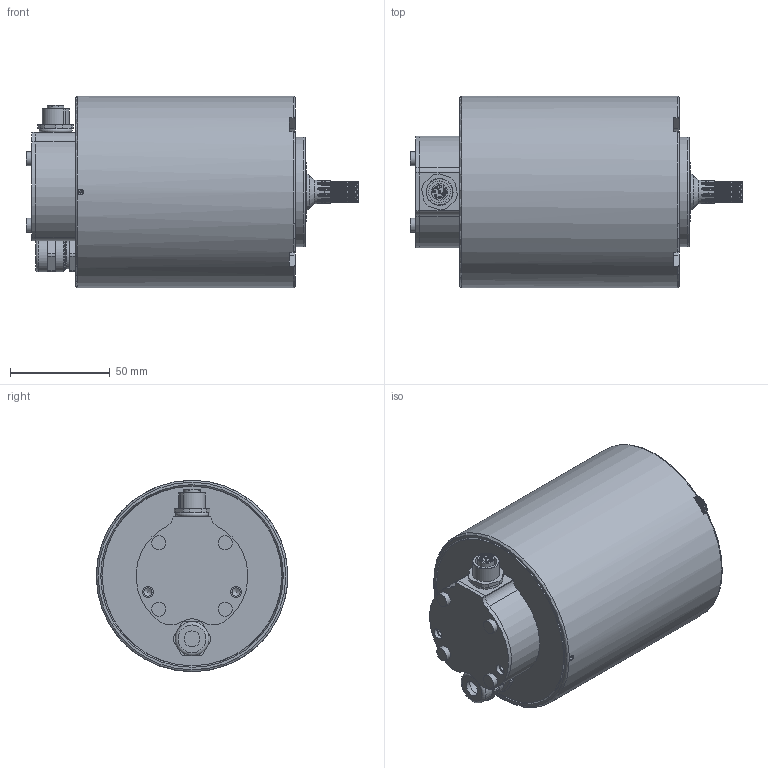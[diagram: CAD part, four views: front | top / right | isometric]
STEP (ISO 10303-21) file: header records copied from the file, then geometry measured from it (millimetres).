
FILE_DESCRIPTION( ( 'Unknown' ), '1' );
FILE_NAME( 'C:/Users/AIW6EW004/Desktop/20141029_FE60.stp', 'Unknown', ( 'Unknown' ), ( 'Unknown' ), 'PSStep 14.0', 'Unknown', ' ' );
FILE_SCHEMA( ( 'AUTOMOTIVE_DESIGN { 1 0 10303 214 1 1 1 1 }' ) );
Length unit declared in the file: millimetre
Products named in the file (17): X01423-1002_LW_kpl_FE60-oa2; X01423-1001_LW; 403624_Stator_u_Geh-oa1; X01423-900_Statorgehaeuse_FE60-oa0; Assem1; 107688; X01423-901_LAB-oa3; Washer_DIN_433_1_3.2_v10.00; Screw_DIN_7984_M3x6_v10.00; 101180_M16; Einbausteckverbinder_M12_1513790; Radial_seal_ring_DIN_3760_A30x47x7_v10.00; X01423-902_AD; Screw_DIN_7984_M4x8_v10.00; Screw_DIN_916_1980_M3x8_v10.00
Assembly tree (19 placements, depth 3):
  Assem1
    107688
    X01423-901_LAB-oa3
    Washer_DIN_433_1_3.2_v10.00
    Screw_DIN_7984_M3x6_v10.00
    101180_M16
    Einbausteckverbinder_M12_1513790
    Radial_seal_ring_DIN_3760_A30x47x7_v10.00
    Radial_seal_ring_DIN_3760_A30x47x7_v10.00
    X01423-902_AD
    Screw_DIN_7984_M4x8_v10.00  x4
    Screw_DIN_916_1980_M3x8_v10.00
    Screw_DIN_916_1980_M3x8_v10.00
    403624_Stator_u_Geh-oa1
      X01423-900_Statorgehaeuse_FE60-oa0
    X01423-1002_LW_kpl_FE60-oa2
      X01423-1001_LW
Bounding box: 166.3 x 95.9 x 95.9 mm (x, y, z)
Volume: 257179.7 mm3; surface area: 137763.9 mm2
Topology: 17 solids, 18 shells, 1613 faces, 4109 edges, 2608 vertices
Faces by surface type: plane 966, cone 401, cylinder 216, torus 27, bspline 3
Full cylindrical faces by diameter (mm): 0.434 x1, 0.9 x8, 1.3 x8, 2.387 x1, 2.459 x12, 3 x4, 3.141 x4, 3.2 x2, 3.242 x26, 4 x9, 4.134 x4, 4.3 x1, 4.5 x4, 5.5 x3, 6 x2, 7 x4, 8 x2, 10.885 x1, 12 x1, 12.6 x1, 13.2 x1, 14 x2, 14.376 x2, 15.038 x1, 16 x1, 17 x4, 17.95 x1, 18 x1, 19.2 x2, 23.9 x1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
Entity records: 58511 total; most frequent: CARTESIAN_POINT 10223, ORIENTED_EDGE 7466, DIRECTION 7273, EDGE_CURVE 3733, VERTEX_POINT 2489, AXIS2_PLACEMENT_3D 2430, LINE 2413, VECTOR 2413
